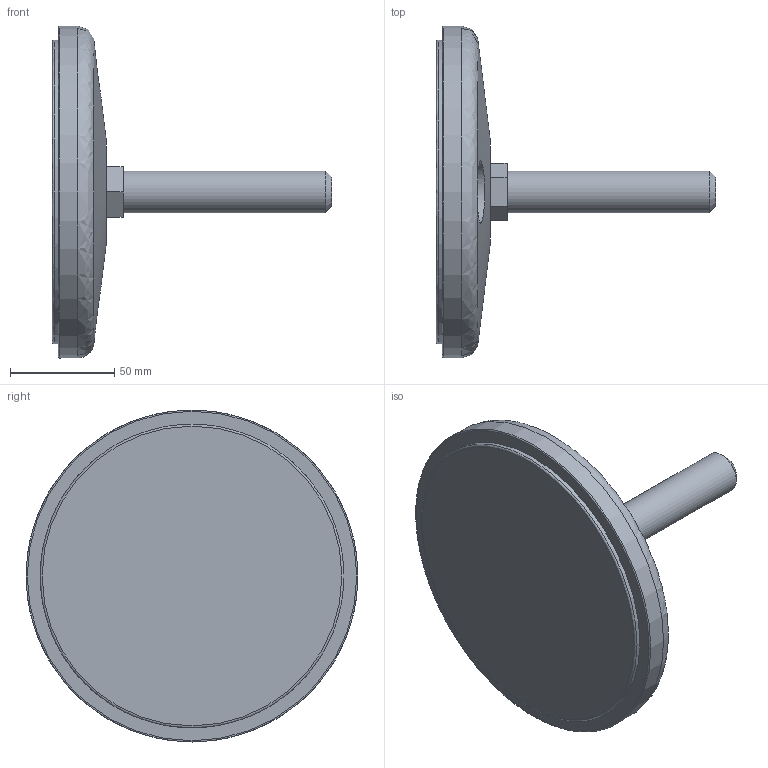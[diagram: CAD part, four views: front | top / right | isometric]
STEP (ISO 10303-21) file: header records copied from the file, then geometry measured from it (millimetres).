
FILE_DESCRIPTION(('STEP AP203'),'2;1');
FILE_NAME('12454-G.stp','2015-12-10T11:17:05',(''),(''),'2008.1.107','THINKDESIGN','');
FILE_SCHEMA(('CONFIG_CONTROL_DESIGN'));
Length unit declared in the file: millimetre
Bounding box: 134 x 159 x 159 mm (x, y, z)
Volume: 462694.6 mm3; surface area: 96570.9 mm2
Topology: 5 solids, 5 shells, 42 faces, 104 edges, 74 vertices
Faces by surface type: plane 20, cylinder 11, bspline 11
Full cylindrical faces by diameter (mm): 12.5 x2, 20 x1, 24 x2, 39 x1, 145.5 x2, 159 x1
Entity records: 2517 total; most frequent: CARTESIAN_POINT 1377, DIRECTION 229, ORIENTED_EDGE 208, EDGE_CURVE 104, AXIS2_PLACEMENT_3D 97, VERTEX_POINT 74, CIRCLE 66, EDGE_LOOP 50
